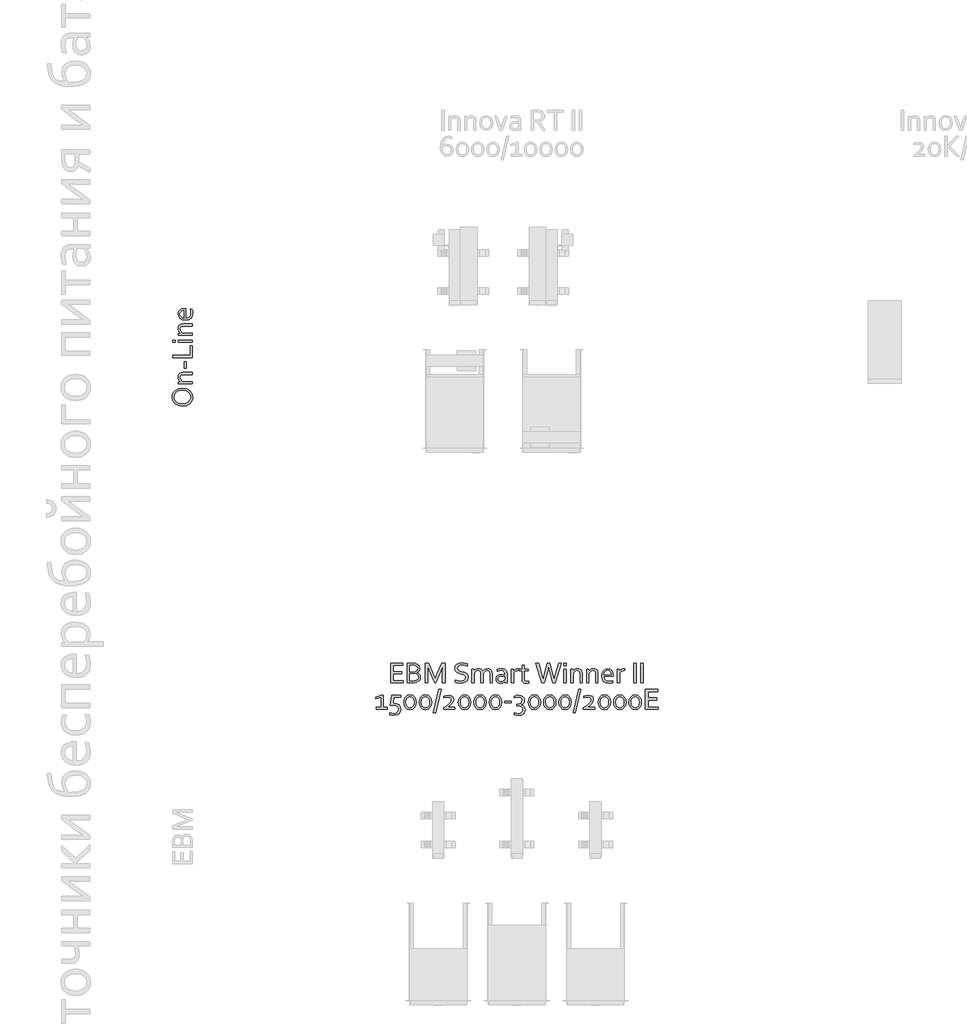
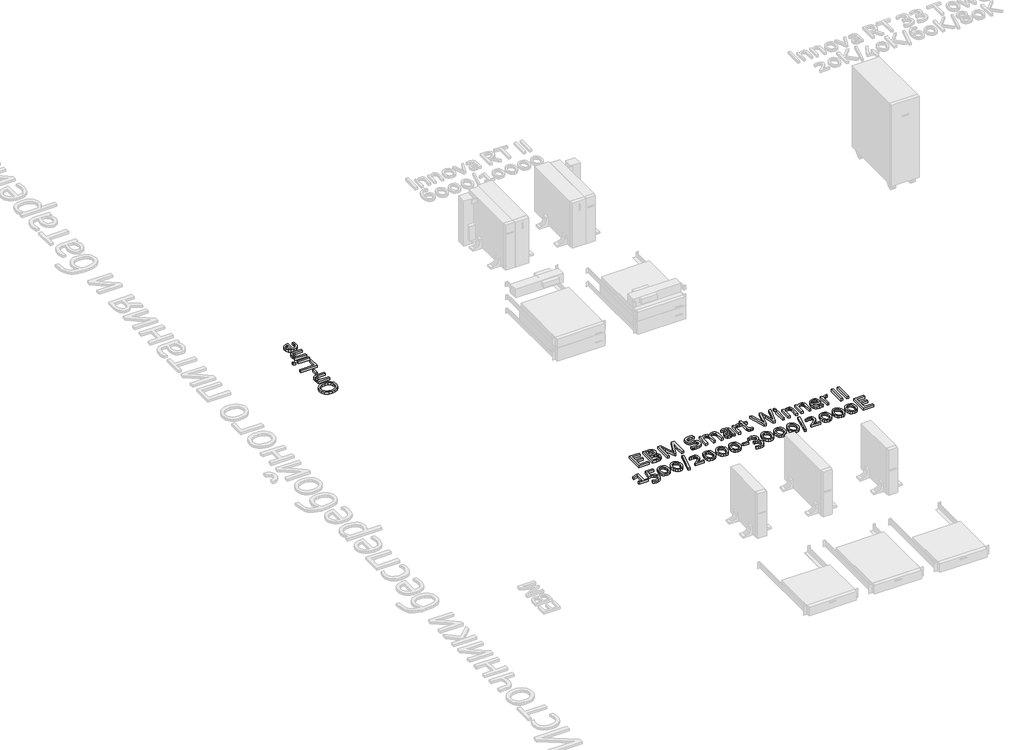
# One storey, part 3 of 10: 2 proxies.
"""IFC4 building model written with IfcOpenShell, lengths in millimetres."""

from ifc_helpers import new_model, si_unit, origin, origin_with_axes, place, context, project, spatial, polyline, outline, extrude, element, save

model = new_model("IFC4")

# Units and contexts
model_context = context("Model", 3, world=origin())
ifc_project = project(units=[si_unit("LENGTHUNIT", "METRE", prefix="MILLI")], contexts=[model_context])

# Site, building, storey
site = spatial("IfcSite", under=ifc_project)
building = spatial("IfcBuilding", under=site)
storey = spatial("IfcBuildingStorey", under=building, Name="Этаж 01", Elevation=0.0)

# Proxies
placement = place(None, origin())
element("IfcBuildingElementProxy", 1, Name="150 мм Corbel", ObjectType="150 мм Corbel", at=placement, inside=storey, context=model_context, shape_type="SweptSolid", body=[
    extrude(outline(polyline([(2451.7255565, -5315.0828355), (2483.2258256, -5319.8953767), (2507.966662, -5333.6548692), (2524.1761755, -5355.2238035), (2529.9949752, -5383.4646698), (2528.5402752, -5398.7991758), (2524.1761755, -5412.4274172), (2507.966662, -5434.0401019), (2483.2258256, -5447.5808426), (2451.7255565, -5452.2840078), (2420.0284106, -5447.4277163), (2395.2219487, -5433.6682237), (2379.0124352, -5412.0992894), (2373.1936355, -5383.6834216), (2374.6483354, -5368.4582916), (2379.0124352, -5354.8956757), (2395.2219487, -5333.3267414), (2420.0284106, -5319.7860007), (2451.7255565, -5315.0828355)]), holes=[polyline([(2451.7255565, -5331.8829791), (2424.9940781, -5335.8642631), (2405.7001632, -5346.8237317), (2393.975063, -5363.2957475), (2389.993779, -5383.6834216), (2393.975063, -5404.0710958), (2405.7001632, -5420.5431116), (2424.9940781, -5431.5025802), (2451.7255565, -5435.4838642), (2478.3695341, -5431.4588298), (2497.5978234, -5420.4337356), (2509.257298, -5403.9617199), (2513.1948316, -5383.4646698), (2509.257298, -5363.1863715), (2497.5978234, -5346.8237317), (2478.3695341, -5335.8642631), (2451.7255565, -5331.8829791)])]), origin_with_axes(), (0.0, 0.0, 1.0), 20.0),
    extrude(outline(polyline([(2435.5816685, -5264.7699057), (2428.7128598, -5258.0542233), (2423.0909368, -5250.2010312), (2419.3284047, -5240.6853249), (2417.9940183, -5229.4196036), (2420.0065355, -5215.8132374), (2426.503466, -5204.8100184), (2438.2066909, -5197.4162052), (2455.9693427, -5194.6818068), (2527.1949512, -5194.6818068), (2527.1949512, -5211.4819504), (2458.113111, -5211.4819504), (2446.1528526, -5212.8272744), (2438.097315, -5216.8632464), (2433.5199322, -5223.4695528), (2431.9941379, -5232.5258802), (2437.2223075, -5250.0697801), (2451.5943053, -5264.6824049), (2527.1949512, -5264.6824049), (2527.1949512, -5281.4825485), (2420.7940422, -5281.4825485), (2420.7940422, -5268.1386845), (2435.5816685, -5264.7699057)])), origin_with_axes(), (0.0, 0.0, 1.0), 20.0),
    extrude(outline(polyline([(2465.5944249, -5164.4065482), (2465.5944249, -5114.9686258), (2479.5945446, -5114.9686258), (2479.5945446, -5164.4065482), (2465.5944249, -5164.4065482)])), origin_with_axes(), (0.0, 0.0, 1.0), 20.0),
    extrude(outline(polyline([(2375.9936594, -5063.0806825), (2510.3948077, -5063.0806825), (2510.3948077, -4989.8425567), (2527.1949512, -4989.8425567), (2527.1949512, -5082.6808499), (2375.9936594, -5082.6808499), (2375.9936594, -5063.0806825)])), origin_with_axes(), (0.0, 0.0, 1.0), 20.0),
    extrude(outline(polyline([(2395.5938269, -4965.0798452), (2375.9936594, -4965.0798452), (2375.9936594, -4948.2797016), (2395.5938269, -4948.2797016), (2395.5938269, -4965.0798452)])), origin_with_axes(), (0.0, 0.0, 1.0), 20.0),
    extrude(outline(polyline([(2527.1949512, -4965.0798452), (2420.7940422, -4965.0798452), (2420.7940422, -4948.2797016), (2527.1949512, -4948.2797016), (2527.1949512, -4965.0798452)])), origin_with_axes(), (0.0, 0.0, 1.0), 20.0),
    extrude(outline(polyline([(2435.5816685, -4895.1667478), (2428.7128598, -4888.4510655), (2423.0909368, -4880.5978734), (2419.3284047, -4871.0821671), (2417.9940183, -4859.8164458), (2420.0065355, -4846.2100796), (2426.503466, -4835.2068606), (2438.2066909, -4827.8130474), (2455.9693427, -4825.078649), (2527.1949512, -4825.078649), (2527.1949512, -4841.8787926), (2458.113111, -4841.8787926), (2446.1528526, -4843.2241166), (2438.097315, -4847.2600885), (2433.5199322, -4853.866395), (2431.9941379, -4862.9227224), (2437.2223075, -4880.4666222), (2451.5943053, -4895.0792471), (2527.1949512, -4895.0792471), (2527.1949512, -4911.8793906), (2420.7940422, -4911.8793906), (2420.7940422, -4898.5355266), (2435.5816685, -4895.1667478)])), origin_with_axes(), (0.0, 0.0, 1.0), 20.0),
    extrude(outline(polyline([(2515.9948556, -4741.7341869), (2514.529218, -4725.9621772), (2510.3948077, -4711.7651809), (2524.2199258, -4711.7651809), (2528.4418369, -4725.8965516), (2529.9949752, -4743.965456), (2527.0855753, -4765.4250144), (2517.6792449, -4782.4439098), (2500.7040999, -4793.2502521), (2475.438259, -4797.0784098), (2450.1942934, -4793.0971258), (2432.3441409, -4782.5095353), (2421.5815489, -4767.2844052), (2417.9940183, -4749.3030016), (2420.9252933, -4732.8091107), (2430.1566222, -4719.5089971), (2446.409886, -4710.605796), (2470.2757149, -4707.3463931), (2472.5288592, -4707.3463931), (2476.7945206, -4707.4776443), (2476.7945206, -4781.1970241), (2494.9946761, -4778.1126228), (2507.1135297, -4769.6906758), (2513.8729624, -4757.1780689), (2515.9948556, -4741.7341869)]), holes=[polyline([(2431.9941379, -4750.046758), (2434.4222836, -4761.5531063), (2441.0285901, -4770.8281855), (2450.8067986, -4777.2594905), (2462.794401, -4780.2782663), (2462.794401, -4724.2777878), (2450.6974227, -4725.9621772), (2440.9192141, -4730.9278446), (2434.3785332, -4738.9779134), (2431.9941379, -4750.046758)])]), origin_with_axes(), (0.0, 0.0, 1.0), 20.0),
])
element("IfcBuildingElementProxy", 2, Name="150 мм Corbel", ObjectType="150 мм Corbel", at=placement, inside=storey, context=model_context, shape_type="SweptSolid", body=[
    extrude(outline(polyline([(4061.2924439, -7548.6877316), (4138.205601, -7548.6877316), (4138.205601, -7565.4878752), (4041.6922764, -7565.4878752), (4041.6922764, -7414.2865833), (4134.0493155, -7414.2865833), (4134.0493155, -7431.0867269), (4061.2924439, -7431.0867269), (4061.2924439, -7478.6871335), (4125.9992467, -7478.6871335), (4125.9992467, -7495.4872771), (4061.2924439, -7495.4872771), (4061.2924439, -7548.6877316)])), origin_with_axes(), (0.0, 0.0, 1.0), 20.0),
    extrude(outline(polyline([(4239.0064622, -7486.1246971), (4251.497194, -7490.1278563), (4260.9035243, -7497.1497913), (4266.6348233, -7507.3217532), (4268.4942142, -7520.7749931), (4266.9848263, -7532.0407144), (4261.9535333, -7543.4814371), (4252.7222044, -7553.7190246), (4238.5689585, -7561.37534), (4224.1750855, -7564.5691173), (4205.1874233, -7565.4878752), (4167.6933529, -7565.4878752), (4167.6933529, -7414.2865833), (4204.1374143, -7414.2865833), (4213.2156169, -7414.4615848), (4220.7406812, -7414.9647141), (4227.1282357, -7415.7959712), (4232.7064084, -7416.9553561), (4245.1752649, -7422.1616506), (4254.7128464, -7430.0148427), (4260.7722732, -7440.3836813), (4262.8941663, -7453.0056641), (4261.6035303, -7463.4838786), (4257.4472448, -7472.7370827), (4250.0534316, -7480.3277726), (4239.0064622, -7486.1246971)]), holes=[polyline([(4214.4187522, -7478.6871335), (4223.4532043, -7478.1840042), (4230.3438882, -7476.7183667), (4242.3314906, -7468.1214183), (4246.0940228, -7454.3181753), (4242.1564891, -7440.9961865), (4229.8188837, -7433.2742455), (4220.1938015, -7431.5898561), (4207.2874412, -7431.0867269), (4187.2935204, -7431.0867269), (4187.2935204, -7478.6871335), (4214.4187522, -7478.6871335)]), polyline([(4187.2935204, -7495.4872771), (4187.2935204, -7548.6877316), (4208.5999524, -7548.6877316), (4222.6875728, -7547.9439753), (4233.712667, -7545.5814551), (4242.1564891, -7541.1845425), (4247.7346618, -7535.2344917), (4250.7753128, -7528.3219326), (4251.6940706, -7520.9062443), (4250.7096872, -7512.7030492), (4247.5159099, -7505.8342405), (4241.675235, -7500.5185701), (4232.662658, -7496.9747898), (4225.2250945, -7495.8372801), (4214.9000063, -7495.4872771), (4187.2935204, -7495.4872771)])]), origin_with_axes(), (0.0, 0.0, 1.0), 20.0),
    extrude(outline(polyline([(4384.7389573, -7565.4878752), (4376.2513848, -7565.4878752), (4339.2385686, -7475.1871036), (4323.838437, -7434.6305071), (4324.4946926, -7492.3810005), (4324.4946926, -7565.4878752), (4304.8945252, -7565.4878752), (4304.8945252, -7414.2865833), (4331.3635013, -7414.2865833), (4366.8013041, -7499.8185641), (4380.1889185, -7535.2126165), (4394.1452877, -7499.8185641), (4429.6268409, -7414.2865833), (4456.095817, -7414.2865833), (4456.095817, -7565.4878752), (4436.4956495, -7565.4878752), (4436.4956495, -7492.3810005), (4438.070663, -7434.6305071), (4421.7517736, -7475.1871036), (4384.7389573, -7565.4878752)])), origin_with_axes(), (0.0, 0.0, 1.0), 20.0),
    extrude(outline(polyline([(4551.2966304, -7454.3181753), (4554.0310287, -7465.3213943), (4561.3592164, -7472.4964556), (4572.0343076, -7477.1339953), (4584.721916, -7480.5246492), (4602.2001903, -7485.2715648), (4617.4909459, -7492.4466261), (4628.3410386, -7504.368603), (4632.4973241, -7523.2250141), (4628.0129108, -7543.4814371), (4615.6315551, -7557.5034319), (4597.0813966, -7565.6410015), (4573.7405721, -7568.2878991), (4561.8185953, -7567.5660179), (4550.1591207, -7565.6191263), (4540.1184099, -7562.8191023), (4533.0527245, -7559.7128258), (4533.0527245, -7543.0876838), (4542.1309271, -7546.5220881), (4552.5653912, -7549.1689857), (4563.4373591, -7550.8752503), (4573.7405721, -7551.4877555), (4588.7250752, -7550.1533691), (4601.2158069, -7545.690831), (4609.7471298, -7537.1813833), (4612.8971567, -7523.6625178), (4610.0971328, -7512.4842973), (4602.637694, -7505.1998601), (4591.8751021, -7500.5185701), (4579.0343674, -7497.1060409), (4561.6217186, -7492.556002), (4546.4622141, -7485.4903167), (4535.7433725, -7473.8527172), (4531.6964629, -7455.6744369), (4535.9402492, -7435.8555176), (4547.4247223, -7422.1179002), (4563.9842388, -7414.0897066), (4583.8469085, -7411.4865594), (4606.2033495, -7413.783454), (4625.1910117, -7419.75538), (4625.1910117, -7436.6867747), (4605.9627224, -7430.6929735), (4584.721916, -7428.2867029), (4569.9124144, -7430.1242186), (4559.4998255, -7435.3523883), (4553.3310228, -7443.5774586), (4551.2966304, -7454.3181753)])), origin_with_axes(), (0.0, 0.0, 1.0), 20.0),
    extrude(outline(polyline([(4747.298305, -7565.4878752), (4730.4981615, -7565.4878752), (4730.4981615, -7496.4060349), (4728.9668984, -7484.4840581), (4724.5043602, -7476.3902389), (4717.5261756, -7471.7526993), (4708.4479731, -7470.2870618), (4691.232201, -7475.5152314), (4677.2977069, -7489.8872292), (4677.2977069, -7565.4878752), (4660.4975634, -7565.4878752), (4660.4975634, -7459.0869661), (4673.9289281, -7459.0869661), (4677.2539565, -7473.8745924), (4683.9477637, -7467.0057837), (4691.5384536, -7461.3838607), (4700.7479073, -7457.6213286), (4711.7292511, -7456.2869422), (4722.5793438, -7457.7142981), (4731.4169193, -7461.9963659), (4743.4920225, -7477.5496238), (4760.1827901, -7461.9307404), (4781.4673469, -7456.2869422), (4793.411199, -7457.8619556), (4805.005048, -7463.637005), (4813.7988732, -7475.230854), (4817.2989031, -7494.2622666), (4817.2989031, -7565.4878752), (4800.4987595, -7565.4878752), (4800.4987595, -7496.4060349), (4798.9674964, -7484.4840581), (4794.5268335, -7476.3902389), (4787.5705241, -7471.7526993), (4778.4923215, -7470.2870618), (4761.2546742, -7475.5152314), (4747.298305, -7489.8872292), (4747.298305, -7565.4878752)])), origin_with_axes(), (0.0, 0.0, 1.0), 20.0),
    extrude(outline(polyline([(4913.0247209, -7553.7190246), (4907.2277964, -7559.034695), (4899.812108, -7563.7597354), (4890.6245295, -7567.0628886), (4879.9931887, -7568.2878991), (4865.9711939, -7566.0347548), (4855.0117253, -7559.4065732), (4847.8585392, -7548.7533572), (4845.2991423, -7534.5126105), (4848.1429166, -7520.5124909), (4856.1054846, -7510.0342764), (4868.4212148, -7503.4060947), (4884.3244757, -7501.0873249), (4899.571481, -7502.5748376), (4912.0622127, -7505.9436164), (4912.4997164, -7498.3310514), (4911.9309616, -7489.9966052), (4910.0059451, -7483.6309258), (4900.7308659, -7474.0714691), (4883.4494682, -7470.2870618), (4868.2462133, -7471.7745745), (4854.0929674, -7475.8871096), (4854.0929674, -7462.1932426), (4860.4148964, -7459.8088472), (4868.093087, -7457.905706), (4876.6025347, -7456.7025707), (4885.5932366, -7456.2869422), (4900.2277366, -7457.7142981), (4911.8434608, -7461.9963659), (4920.5060348, -7468.6300164), (4926.2810842, -7477.1121201), (4928.599854, -7485.0090626), (4929.29986, -7494.4810185), (4929.29986, -7565.4878752), (4914.905987, -7565.4878752), (4913.0247209, -7553.7190246)]), holes=[polyline([(4912.4997164, -7519.0687286), (4900.8839922, -7516.4655813), (4886.118241, -7515.0874445), (4868.4649652, -7519.8562353), (4863.6907057, -7525.9047245), (4862.0992858, -7534.5126105), (4863.6961745, -7543.2626853), (4868.0712119, -7549.4533632), (4874.6556431, -7553.0846442), (4882.7932126, -7554.2877795), (4893.3808031, -7552.6471404), (4902.0871275, -7548.731482), (4908.5621828, -7544.1814431), (4912.4997164, -7540.6376628), (4912.4997164, -7519.0687286)])]), origin_with_axes(), (0.0, 0.0, 1.0), 20.0),
    extrude(outline(polyline([(5020.6943908, -7470.2870618), (5007.2630261, -7471.4464467), (4996.1066808, -7474.9683518), (4986.7003504, -7480.8090267), (4979.7002906, -7489.0122218), (4979.7002906, -7565.4878752), (4962.9001471, -7565.4878752), (4962.9001471, -7459.0869661), (4975.8940081, -7459.0869661), (4979.1315357, -7476.0183607), (4985.7815925, -7468.2745446), (4994.2472899, -7461.9963659), (5004.5723781, -7457.7963301), (5016.3631038, -7456.2869422), (5018.6381233, -7456.3306925), (5020.6943908, -7456.4619437), (5020.6943908, -7470.2870618)])), origin_with_axes(), (0.0, 0.0, 1.0), 20.0),
    extrude(outline(polyline([(5094.2825196, -7565.8816285), (5087.4574612, -7567.456642), (5076.4761174, -7568.2878991), (5061.9947437, -7566.1878811), (5051.9540329, -7560.1940799), (5046.0477325, -7550.7658744), (5044.1008408, -7538.4501441), (5044.1008408, -7473.0870857), (5023.5819155, -7473.0870857), (5023.5819155, -7459.0869661), (5044.1008408, -7459.0869661), (5044.1008408, -7431.0867269), (5060.9009844, -7431.0867269), (5060.9009844, -7459.0869661), (5092.7075061, -7459.0869661), (5092.7075061, -7473.0870857), (5060.9009844, -7473.0870857), (5060.9009844, -7536.7001292), (5061.9509933, -7543.7220642), (5065.2978969, -7549.3002368), (5071.1823222, -7552.9752682), (5079.8448962, -7554.2877795), (5087.1730838, -7553.7190246), (5094.2825196, -7552.2752623), (5094.2825196, -7565.8816285)])), origin_with_axes(), (0.0, 0.0, 1.0), 20.0),
    extrude(outline(polyline([(5247.0588249, -7439.2680468), (5238.3962508, -7475.6683577), (5214.9460505, -7565.4878752), (5196.2208905, -7565.4878752), (5150.5017499, -7414.2865833), (5170.1019173, -7414.2865833), (5194.7771282, -7503.0123414), (5204.7959638, -7541.4251696), (5210.0678838, -7520.9718698), (5214.6835482, -7503.2310932), (5237.3024915, -7414.2865833), (5256.902659, -7414.2865833), (5278.9528474, -7503.2310932), (5288.1404258, -7541.4251696), (5298.8592674, -7503.0123414), (5324.1032331, -7414.2865833), (5343.7034006, -7414.2865833), (5297.284254, -7565.4878752), (5278.559094, -7565.4878752), (5255.5901477, -7475.6683577), (5247.0588249, -7439.2680468)])), origin_with_axes(), (0.0, 0.0, 1.0), 20.0),
    extrude(outline(polyline([(5363.303568, -7433.8867508), (5363.303568, -7414.2865833), (5380.1037116, -7414.2865833), (5380.1037116, -7433.8867508), (5363.303568, -7433.8867508)])), origin_with_axes(), (0.0, 0.0, 1.0), 20.0),
    extrude(outline(polyline([(5363.303568, -7565.4878752), (5363.303568, -7459.0869661), (5380.1037116, -7459.0869661), (5380.1037116, -7565.4878752), (5363.303568, -7565.4878752)])), origin_with_axes(), (0.0, 0.0, 1.0), 20.0),
    extrude(outline(polyline([(5433.2166654, -7473.8745924), (5439.9323477, -7467.0057837), (5447.7855398, -7461.3838607), (5457.3012461, -7457.6213286), (5468.5669674, -7456.2869422), (5482.1733336, -7458.2994594), (5493.1765526, -7464.7963899), (5500.5703658, -7476.4996149), (5503.3047642, -7494.2622666), (5503.3047642, -7565.4878752), (5486.5046206, -7565.4878752), (5486.5046206, -7496.4060349), (5485.1592966, -7484.4457765), (5481.1233247, -7476.3902389), (5474.5170182, -7471.8128561), (5465.4606908, -7470.2870618), (5447.9167909, -7475.5152314), (5433.3041661, -7489.8872292), (5433.3041661, -7565.4878752), (5416.5040226, -7565.4878752), (5416.5040226, -7459.0869661), (5429.8478866, -7459.0869661), (5433.2166654, -7473.8745924)])), origin_with_axes(), (0.0, 0.0, 1.0), 20.0),
    extrude(outline(polyline([(5553.617694, -7473.8745924), (5560.3333764, -7467.0057837), (5568.1865685, -7461.3838607), (5577.7022748, -7457.6213286), (5588.9679961, -7456.2869422), (5602.5743623, -7458.2994594), (5613.5775813, -7464.7963899), (5620.9713945, -7476.4996149), (5623.7057929, -7494.2622666), (5623.7057929, -7565.4878752), (5606.9056493, -7565.4878752), (5606.9056493, -7496.4060349), (5605.5603253, -7484.4457765), (5601.5243533, -7476.3902389), (5594.9180469, -7471.8128561), (5585.8617195, -7470.2870618), (5568.3178196, -7475.5152314), (5553.7051948, -7489.8872292), (5553.7051948, -7565.4878752), (5536.9050512, -7565.4878752), (5536.9050512, -7459.0869661), (5550.2489153, -7459.0869661), (5553.617694, -7473.8745924)])), origin_with_axes(), (0.0, 0.0, 1.0), 20.0),
    extrude(outline(polyline([(5707.0502549, -7554.2877795), (5722.8222647, -7552.8221419), (5737.019261, -7548.6877316), (5737.019261, -7562.5128497), (5722.8878903, -7566.7347608), (5704.8189859, -7568.2878991), (5683.3594275, -7565.3784992), (5666.3405321, -7555.9721688), (5655.5341898, -7538.9970238), (5651.7060321, -7513.731183), (5655.6873161, -7488.4872173), (5666.2749066, -7470.6370648), (5681.5000366, -7459.8744728), (5699.4814403, -7456.2869422), (5715.9753312, -7459.2182172), (5729.2754448, -7468.4495461), (5738.1786459, -7484.7028099), (5741.4380487, -7508.5686388), (5741.4380487, -7510.8217831), (5741.3067976, -7515.0874445), (5667.5874178, -7515.0874445), (5670.6718191, -7533.2876), (5679.0937661, -7545.4064536), (5691.606373, -7552.1658863), (5707.0502549, -7554.2877795)]), holes=[polyline([(5698.7376839, -7470.2870618), (5687.2313356, -7472.7152075), (5677.9562564, -7479.321514), (5671.5249514, -7489.0997225), (5668.5061756, -7501.0873249), (5724.5066541, -7501.0873249), (5722.8222647, -7488.9903466), (5717.8565973, -7479.212138), (5709.8065285, -7472.6714571), (5698.7376839, -7470.2870618)])]), origin_with_axes(), (0.0, 0.0, 1.0), 20.0),
    extrude(outline(polyline([(5829.9013046, -7470.2870618), (5816.4699398, -7471.4464467), (5805.3135945, -7474.9683518), (5795.9072641, -7480.8090267), (5788.9072043, -7489.0122218), (5788.9072043, -7565.4878752), (5772.1070608, -7565.4878752), (5772.1070608, -7459.0869661), (5785.1009218, -7459.0869661), (5788.3384495, -7476.0183607), (5794.9885063, -7468.2745446), (5803.4542036, -7461.9963659), (5813.7792918, -7457.7963301), (5825.5700176, -7456.2869422), (5827.845037, -7456.3306925), (5829.9013046, -7456.4619437), (5829.9013046, -7470.2870618)])), origin_with_axes(), (0.0, 0.0, 1.0), 20.0),
    extrude(outline(polyline([(5895.3081134, -7565.4878752), (5895.3081134, -7414.2865833), (5914.9082808, -7414.2865833), (5914.9082808, -7565.4878752), (5895.3081134, -7565.4878752)])), origin_with_axes(), (0.0, 0.0, 1.0), 20.0),
    extrude(outline(polyline([(5951.3085918, -7565.4878752), (5951.3085918, -7414.2865833), (5970.9087593, -7414.2865833), (5970.9087593, -7565.4878752), (5951.3085918, -7565.4878752)])), origin_with_axes(), (0.0, 0.0, 1.0), 20.0),
    extrude(outline(polyline([(3967.4916425, -7751.8881861), (3967.4916425, -7673.4875163), (3927.0225467, -7687.4876359), (3927.0225467, -7673.4875163), (3969.7666619, -7659.4873967), (3984.291786, -7659.4873967), (3984.291786, -7751.8881861), (4013.6482868, -7751.8881861), (4013.6482868, -7765.8883058), (3931.7038367, -7765.8883058), (3931.7038367, -7751.8881861), (3967.4916425, -7751.8881861)])), origin_with_axes(), (0.0, 0.0, 1.0), 20.0),
    extrude(outline(polyline([(4118.6929343, -7765.7570546), (4115.2147796, -7784.8103424), (4105.0209425, -7799.9260966), (4088.0895478, -7809.9011818), (4064.8799745, -7813.4887125), (4048.6267107, -7812.0011997), (4034.735967, -7807.4511609), (4034.735967, -7793.888545), (4050.420476, -7798.3292079), (4064.0924678, -7799.4885928), (4080.6957347, -7796.8635704), (4092.4645852, -7789.7103843), (4099.5302706, -7779.1665442), (4101.8927908, -7766.5445614), (4099.3990195, -7752.6100673), (4091.5895777, -7742.8318588), (4077.9394611, -7737.0130591), (4057.8361643, -7735.0880426), (4038.0609954, -7736.2255523), (4048.6923362, -7659.4873967), (4119.7429433, -7659.4873967), (4119.7429433, -7673.4875163), (4065.4924798, -7673.4875163), (4059.2361763, -7721.3066749), (4065.4924798, -7721.087923), (4088.2426741, -7724.1066988), (4104.9334417, -7732.8348984), (4115.1929044, -7746.835018), (4118.6929343, -7765.7570546)])), origin_with_axes(), (0.0, 0.0, 1.0), 20.0),
    extrude(outline(polyline([(4236.2939391, -7712.8191023), (4233.0782866, -7734.9130411), (4223.7375818, -7752.6538177), (4208.8405795, -7764.4226682), (4188.7810331, -7768.6883297), (4168.3277334, -7764.4226682), (4153.3651055, -7752.6538177), (4144.1994022, -7734.9130411), (4141.0931257, -7712.8191023), (4144.3087782, -7690.5720373), (4153.649483, -7672.7656351), (4168.6121108, -7660.9530342), (4188.6935324, -7656.6873728), (4209.0593314, -7660.9530342), (4224.0219592, -7672.7656351), (4233.1876625, -7690.5720373), (4236.2939391, -7712.8191023)]), holes=[polyline([(4219.4937955, -7712.8191023), (4217.3062768, -7695.1658265), (4211.1155989, -7681.9313384), (4201.4467663, -7673.5968922), (4188.6935324, -7670.6874924), (4175.9402984, -7673.5968922), (4166.2277154, -7681.9313384), (4160.0370375, -7695.1658265), (4157.8932692, -7712.8191023), (4160.0807879, -7730.3192519), (4166.2714658, -7743.5099896), (4176.005924, -7751.7788102), (4188.8247835, -7754.6882101), (4201.5561423, -7751.7788102), (4211.2249749, -7743.5099896), (4217.3500272, -7730.3192519), (4219.4937955, -7712.8191023)])]), origin_with_axes(), (0.0, 0.0, 1.0), 20.0),
    extrude(outline(polyline([(4353.8949438, -7712.8191023), (4350.6792913, -7734.9130411), (4341.3385865, -7752.6538177), (4326.4415843, -7764.4226682), (4306.3820379, -7768.6883297), (4285.9287381, -7764.4226682), (4270.9661103, -7752.6538177), (4261.800407, -7734.9130411), (4258.6941304, -7712.8191023), (4261.9097829, -7690.5720373), (4271.2504877, -7672.7656351), (4286.2131156, -7660.9530342), (4306.2945371, -7656.6873728), (4326.6603361, -7660.9530342), (4341.622964, -7672.7656351), (4350.7886673, -7690.5720373), (4353.8949438, -7712.8191023)]), holes=[polyline([(4337.0948003, -7712.8191023), (4334.9072816, -7695.1658265), (4328.7166037, -7681.9313384), (4319.0477711, -7673.5968922), (4306.2945371, -7670.6874924), (4293.5413032, -7673.5968922), (4283.8287202, -7681.9313384), (4277.6380423, -7695.1658265), (4275.494274, -7712.8191023), (4277.6817927, -7730.3192519), (4283.8724706, -7743.5099896), (4293.6069287, -7751.7788102), (4306.4257883, -7754.6882101), (4319.157147, -7751.7788102), (4328.8259796, -7743.5099896), (4334.951032, -7730.3192519), (4337.0948003, -7712.8191023)])]), origin_with_axes(), (0.0, 0.0, 1.0), 20.0),
    extrude(outline(polyline([(4367.1075567, -7793.888545), (4409.7204208, -7614.6870139), (4426.3018125, -7614.6870139), (4383.6889484, -7793.888545), (4367.1075567, -7793.888545)])), origin_with_axes(), (0.0, 0.0, 1.0), 20.0),
    extrude(outline(polyline([(4474.0772206, -7752.3256899), (4497.2649187, -7751.8881861), (4530.9527066, -7751.8881861), (4530.9527066, -7765.8883058), (4445.683228, -7765.8883058), (4445.683228, -7756.3507243), (4469.4615562, -7738.5661973), (4488.2304666, -7722.7504372), (4500.6118223, -7708.0065612), (4505.0962357, -7693.5689379), (4503.526691, -7684.9610518), (4498.818057, -7678.6500604), (4491.1672104, -7674.7781523), (4480.7710278, -7673.4875163), (4463.7958828, -7675.084405), (4446.8207378, -7679.0875642), (4446.8207378, -7667.012461), (4462.5708723, -7661.7405409), (4483.133548, -7659.4873967), (4499.2774359, -7661.7186658), (4511.5056654, -7668.2155963), (4519.183856, -7678.7594363), (4521.8963792, -7693.2626853), (4518.3525989, -7709.6253251), (4508.5525152, -7724.2379499), (4493.3273851, -7738.063068), (4474.0772206, -7752.3256899)])), origin_with_axes(), (0.0, 0.0, 1.0), 20.0),
    extrude(outline(polyline([(4653.4975036, -7712.8191023), (4650.2818511, -7734.9130411), (4640.9411463, -7752.6538177), (4626.044144, -7764.4226682), (4605.9845976, -7768.6883297), (4585.5312979, -7764.4226682), (4570.56867, -7752.6538177), (4561.4029667, -7734.9130411), (4558.2966902, -7712.8191023), (4561.5123427, -7690.5720373), (4570.8530475, -7672.7656351), (4585.8156753, -7660.9530342), (4605.8970969, -7656.6873728), (4626.2628959, -7660.9530342), (4641.2255237, -7672.7656351), (4650.391227, -7690.5720373), (4653.4975036, -7712.8191023)]), holes=[polyline([(4636.69736, -7712.8191023), (4634.5098413, -7695.1658265), (4628.3191635, -7681.9313384), (4618.6503308, -7673.5968922), (4605.8970969, -7670.6874924), (4593.1438629, -7673.5968922), (4583.4312799, -7681.9313384), (4577.240602, -7695.1658265), (4575.0968337, -7712.8191023), (4577.2843524, -7730.3192519), (4583.4750303, -7743.5099896), (4593.2094885, -7751.7788102), (4606.028348, -7754.6882101), (4618.7597068, -7751.7788102), (4628.4285394, -7743.5099896), (4634.5535917, -7730.3192519), (4636.69736, -7712.8191023)])]), origin_with_axes(), (0.0, 0.0, 1.0), 20.0),
    extrude(outline(polyline([(4771.0985083, -7712.8191023), (4767.8828559, -7734.9130411), (4758.5421511, -7752.6538177), (4743.6451488, -7764.4226682), (4723.5856024, -7768.6883297), (4703.1323026, -7764.4226682), (4688.1696748, -7752.6538177), (4679.0039715, -7734.9130411), (4675.897695, -7712.8191023), (4679.1133474, -7690.5720373), (4688.4540522, -7672.7656351), (4703.4166801, -7660.9530342), (4723.4981016, -7656.6873728), (4743.8639006, -7660.9530342), (4758.8265285, -7672.7656351), (4767.9922318, -7690.5720373), (4771.0985083, -7712.8191023)]), holes=[polyline([(4754.2983648, -7712.8191023), (4752.1108461, -7695.1658265), (4745.9201682, -7681.9313384), (4736.2513356, -7673.5968922), (4723.4981016, -7670.6874924), (4710.7448677, -7673.5968922), (4701.0322847, -7681.9313384), (4694.8416068, -7695.1658265), (4692.6978385, -7712.8191023), (4694.8853572, -7730.3192519), (4701.0760351, -7743.5099896), (4710.8104932, -7751.7788102), (4723.6293528, -7754.6882101), (4736.3607115, -7751.7788102), (4746.0295441, -7743.5099896), (4752.1545965, -7730.3192519), (4754.2983648, -7712.8191023)])]), origin_with_axes(), (0.0, 0.0, 1.0), 20.0),
    extrude(outline(polyline([(4888.6995131, -7712.8191023), (4885.4838606, -7734.9130411), (4876.1431558, -7752.6538177), (4861.2461535, -7764.4226682), (4841.1866072, -7768.6883297), (4820.7333074, -7764.4226682), (4805.7706796, -7752.6538177), (4796.6049763, -7734.9130411), (4793.4986997, -7712.8191023), (4796.7143522, -7690.5720373), (4806.055057, -7672.7656351), (4821.0176848, -7660.9530342), (4841.0991064, -7656.6873728), (4861.4649054, -7660.9530342), (4876.4275332, -7672.7656351), (4885.5932366, -7690.5720373), (4888.6995131, -7712.8191023)]), holes=[polyline([(4871.8993696, -7712.8191023), (4869.7118509, -7695.1658265), (4863.521173, -7681.9313384), (4853.8523404, -7673.5968922), (4841.0991064, -7670.6874924), (4828.3458724, -7673.5968922), (4818.6332895, -7681.9313384), (4812.4426116, -7695.1658265), (4810.2988433, -7712.8191023), (4812.4863619, -7730.3192519), (4818.6770398, -7743.5099896), (4828.411498, -7751.7788102), (4841.2303575, -7754.6882101), (4853.9617163, -7751.7788102), (4863.6305489, -7743.5099896), (4869.7556012, -7730.3192519), (4871.8993696, -7712.8191023)])]), origin_with_axes(), (0.0, 0.0, 1.0), 20.0),
    extrude(outline(polyline([(4913.3747239, -7704.2877795), (4962.8126463, -7704.2877795), (4962.8126463, -7718.2878991), (4913.3747239, -7718.2878991), (4913.3747239, -7704.2877795)])), origin_with_axes(), (0.0, 0.0, 1.0), 20.0),
    extrude(outline(polyline([(5036.6195269, -7732.6817721), (5047.9946241, -7735.8099238), (5057.6197063, -7742.5256062), (5064.8603932, -7753.2663229), (5067.9010442, -7768.2070756), (5064.6853917, -7786.8884852), (5055.1478102, -7801.1948574), (5038.9164215, -7810.2949352), (5016.0131008, -7813.4887125), (4998.6660776, -7811.9574494), (4984.0315776, -7807.4511609), (4984.0315776, -7793.888545), (4999.9785888, -7798.1760816), (5014.74434, -7799.4885928), (5032.0257376, -7796.9073208), (5043.182083, -7790.1041377), (5049.2415097, -7780.3259291), (5051.1009006, -7768.7320801), (5048.6454109, -7755.9296269), (5041.2789417, -7747.2725217), (5029.51556, -7742.3341983), (5013.8693325, -7740.6880905), (5001.9692309, -7740.6880905), (5001.9692309, -7726.6879708), (5008.9255403, -7726.6879708), (5025.4850568, -7724.5004522), (5036.860154, -7718.4629006), (5043.42271, -7709.384698), (5045.5008528, -7698.1189768), (5043.2039582, -7687.0938826), (5036.9257795, -7679.4375671), (5027.5631995, -7674.9531538), (5016.0131008, -7673.4875163), (5000.6348445, -7674.9969042), (4985.3878392, -7679.0875642), (4985.3878392, -7665.612449), (5002.9317391, -7660.8217831), (5017.675615, -7659.4873967), (5037.0789058, -7662.3530462), (5051.0352751, -7670.3812398), (5059.3915965, -7682.5875941), (5062.3009963, -7698.1189768), (5060.9447347, -7709.0128198), (5056.5040718, -7718.8129036), (5048.5415038, -7726.8410972), (5036.6195269, -7732.6817721)])), origin_with_axes(), (0.0, 0.0, 1.0), 20.0),
    extrude(outline(polyline([(5185.5020489, -7712.8191023), (5182.2863964, -7734.9130411), (5172.9456916, -7752.6538177), (5158.0486894, -7764.4226682), (5137.989143, -7768.6883297), (5117.5358432, -7764.4226682), (5102.5732154, -7752.6538177), (5093.4075121, -7734.9130411), (5090.3012355, -7712.8191023), (5093.516888, -7690.5720373), (5102.8575928, -7672.7656351), (5117.8202207, -7660.9530342), (5137.9016422, -7656.6873728), (5158.2674412, -7660.9530342), (5173.2300691, -7672.7656351), (5182.3957724, -7690.5720373), (5185.5020489, -7712.8191023)]), holes=[polyline([(5168.7019054, -7712.8191023), (5166.5143867, -7695.1658265), (5160.3237088, -7681.9313384), (5150.6548762, -7673.5968922), (5137.9016422, -7670.6874924), (5125.1484083, -7673.5968922), (5115.4358253, -7681.9313384), (5109.2451474, -7695.1658265), (5107.1013791, -7712.8191023), (5109.2888978, -7730.3192519), (5115.4795757, -7743.5099896), (5125.2140338, -7751.7788102), (5138.0328934, -7754.6882101), (5150.7642521, -7751.7788102), (5160.4330847, -7743.5099896), (5166.5581371, -7730.3192519), (5168.7019054, -7712.8191023)])]), origin_with_axes(), (0.0, 0.0, 1.0), 20.0),
    extrude(outline(polyline([(5303.1030537, -7712.8191023), (5299.8874012, -7734.9130411), (5290.5466964, -7752.6538177), (5275.6496941, -7764.4226682), (5255.5901477, -7768.6883297), (5235.136848, -7764.4226682), (5220.1742202, -7752.6538177), (5211.0085168, -7734.9130411), (5207.9022403, -7712.8191023), (5211.1178928, -7690.5720373), (5220.4585976, -7672.7656351), (5235.4212254, -7660.9530342), (5255.502647, -7656.6873728), (5275.868446, -7660.9530342), (5290.8310738, -7672.7656351), (5299.9967771, -7690.5720373), (5303.1030537, -7712.8191023)]), holes=[polyline([(5286.3029101, -7712.8191023), (5284.1153915, -7695.1658265), (5277.9247136, -7681.9313384), (5268.255881, -7673.5968922), (5255.502647, -7670.6874924), (5242.749413, -7673.5968922), (5233.0368301, -7681.9313384), (5226.8461522, -7695.1658265), (5224.7023838, -7712.8191023), (5226.8899025, -7730.3192519), (5233.0805804, -7743.5099896), (5242.8150386, -7751.7788102), (5255.6338981, -7754.6882101), (5268.3652569, -7751.7788102), (5278.0340895, -7743.5099896), (5284.1591418, -7730.3192519), (5286.3029101, -7712.8191023)])]), origin_with_axes(), (0.0, 0.0, 1.0), 20.0),
    extrude(outline(polyline([(5420.7040584, -7712.8191023), (5417.488406, -7734.9130411), (5408.1477012, -7752.6538177), (5393.2506989, -7764.4226682), (5373.1911525, -7768.6883297), (5352.7378528, -7764.4226682), (5337.7752249, -7752.6538177), (5328.6095216, -7734.9130411), (5325.5032451, -7712.8191023), (5328.7188975, -7690.5720373), (5338.0596023, -7672.7656351), (5353.0222302, -7660.9530342), (5373.1036518, -7656.6873728), (5393.4694508, -7660.9530342), (5408.4320786, -7672.7656351), (5417.5977819, -7690.5720373), (5420.7040584, -7712.8191023)]), holes=[polyline([(5403.9039149, -7712.8191023), (5401.7163962, -7695.1658265), (5395.5257183, -7681.9313384), (5385.8568857, -7673.5968922), (5373.1036518, -7670.6874924), (5360.3504178, -7673.5968922), (5350.6378348, -7681.9313384), (5344.4471569, -7695.1658265), (5342.3033886, -7712.8191023), (5344.4909073, -7730.3192519), (5350.6815852, -7743.5099896), (5360.4160434, -7751.7788102), (5373.2349029, -7754.6882101), (5385.9662617, -7751.7788102), (5395.6350943, -7743.5099896), (5401.7601466, -7730.3192519), (5403.9039149, -7712.8191023)])]), origin_with_axes(), (0.0, 0.0, 1.0), 20.0),
    extrude(outline(polyline([(5433.9166713, -7793.888545), (5476.5295354, -7614.6870139), (5493.1109271, -7614.6870139), (5450.498063, -7793.888545), (5433.9166713, -7793.888545)])), origin_with_axes(), (0.0, 0.0, 1.0), 20.0),
    extrude(outline(polyline([(5540.8863353, -7752.3256899), (5564.0740334, -7751.8881861), (5597.7618212, -7751.8881861), (5597.7618212, -7765.8883058), (5512.4923427, -7765.8883058), (5512.4923427, -7756.3507243), (5536.2706708, -7738.5661973), (5555.0395812, -7722.7504372), (5567.420937, -7708.0065612), (5571.9053503, -7693.5689379), (5570.3358056, -7684.9610518), (5565.6271716, -7678.6500604), (5557.976325, -7674.7781523), (5547.5801425, -7673.4875163), (5530.6049974, -7675.084405), (5513.6298524, -7679.0875642), (5513.6298524, -7667.012461), (5529.379987, -7661.7405409), (5549.9426626, -7659.4873967), (5566.0865506, -7661.7186658), (5578.31478, -7668.2155963), (5585.9929706, -7678.7594363), (5588.7054938, -7693.2626853), (5585.1617135, -7709.6253251), (5575.3616298, -7724.2379499), (5560.1364997, -7738.063068), (5540.8863353, -7752.3256899)])), origin_with_axes(), (0.0, 0.0, 1.0), 20.0),
    extrude(outline(polyline([(5720.3066182, -7712.8191023), (5717.0909657, -7734.9130411), (5707.7502609, -7752.6538177), (5692.8532586, -7764.4226682), (5672.7937123, -7768.6883297), (5652.3404125, -7764.4226682), (5637.3777847, -7752.6538177), (5628.2120814, -7734.9130411), (5625.1058048, -7712.8191023), (5628.3214573, -7690.5720373), (5637.6621621, -7672.7656351), (5652.6247899, -7660.9530342), (5672.7062115, -7656.6873728), (5693.0720105, -7660.9530342), (5708.0346384, -7672.7656351), (5717.2003417, -7690.5720373), (5720.3066182, -7712.8191023)]), holes=[polyline([(5703.5064747, -7712.8191023), (5701.318956, -7695.1658265), (5695.1282781, -7681.9313384), (5685.4594455, -7673.5968922), (5672.7062115, -7670.6874924), (5659.9529775, -7673.5968922), (5650.2403946, -7681.9313384), (5644.0497167, -7695.1658265), (5641.9059484, -7712.8191023), (5644.093467, -7730.3192519), (5650.2841449, -7743.5099896), (5660.0186031, -7751.7788102), (5672.8374626, -7754.6882101), (5685.5688214, -7751.7788102), (5695.237654, -7743.5099896), (5701.3627063, -7730.3192519), (5703.5064747, -7712.8191023)])]), origin_with_axes(), (0.0, 0.0, 1.0), 20.0),
    extrude(outline(polyline([(5837.907623, -7712.8191023), (5834.6919705, -7734.9130411), (5825.3512657, -7752.6538177), (5810.4542634, -7764.4226682), (5790.394717, -7768.6883297), (5769.9414173, -7764.4226682), (5754.9787894, -7752.6538177), (5745.8130861, -7734.9130411), (5742.7068096, -7712.8191023), (5745.9224621, -7690.5720373), (5755.2631669, -7672.7656351), (5770.2257947, -7660.9530342), (5790.3072163, -7656.6873728), (5810.6730153, -7660.9530342), (5825.6356431, -7672.7656351), (5834.8013464, -7690.5720373), (5837.907623, -7712.8191023)]), holes=[polyline([(5821.1074794, -7712.8191023), (5818.9199607, -7695.1658265), (5812.7292828, -7681.9313384), (5803.0604502, -7673.5968922), (5790.3072163, -7670.6874924), (5777.5539823, -7673.5968922), (5767.8413993, -7681.9313384), (5761.6507214, -7695.1658265), (5759.5069531, -7712.8191023), (5761.6944718, -7730.3192519), (5767.8851497, -7743.5099896), (5777.6196079, -7751.7788102), (5790.4384674, -7754.6882101), (5803.1698262, -7751.7788102), (5812.8386588, -7743.5099896), (5818.9637111, -7730.3192519), (5821.1074794, -7712.8191023)])]), origin_with_axes(), (0.0, 0.0, 1.0), 20.0),
    extrude(outline(polyline([(5955.5086277, -7712.8191023), (5952.2929753, -7734.9130411), (5942.9522704, -7752.6538177), (5928.0552682, -7764.4226682), (5907.9957218, -7768.6883297), (5887.542422, -7764.4226682), (5872.5797942, -7752.6538177), (5863.4140909, -7734.9130411), (5860.3078143, -7712.8191023), (5863.5234668, -7690.5720373), (5872.8641716, -7672.7656351), (5887.8267995, -7660.9530342), (5907.908221, -7656.6873728), (5928.27402, -7660.9530342), (5943.2366479, -7672.7656351), (5952.4023512, -7690.5720373), (5955.5086277, -7712.8191023)]), holes=[polyline([(5938.7084842, -7712.8191023), (5936.5209655, -7695.1658265), (5930.3302876, -7681.9313384), (5920.661455, -7673.5968922), (5907.908221, -7670.6874924), (5895.1549871, -7673.5968922), (5885.4424041, -7681.9313384), (5879.2517262, -7695.1658265), (5877.1079579, -7712.8191023), (5879.2954766, -7730.3192519), (5885.4861545, -7743.5099896), (5895.2206126, -7751.7788102), (5908.0394722, -7754.6882101), (5920.7708309, -7751.7788102), (5930.4396635, -7743.5099896), (5936.5647159, -7730.3192519), (5938.7084842, -7712.8191023)])]), origin_with_axes(), (0.0, 0.0, 1.0), 20.0),
    extrude(outline(polyline([(6005.9090583, -7749.0881622), (6082.8222155, -7749.0881622), (6082.8222155, -7765.8883058), (5986.3088909, -7765.8883058), (5986.3088909, -7614.6870139), (6078.66593, -7614.6870139), (6078.66593, -7631.4871575), (6005.9090583, -7631.4871575), (6005.9090583, -7679.0875642), (6070.6158612, -7679.0875642), (6070.6158612, -7695.8877077), (6005.9090583, -7695.8877077), (6005.9090583, -7749.0881622)])), origin_with_axes(), (0.0, 0.0, 1.0), 20.0),
])

save(model, "model.ifc")
